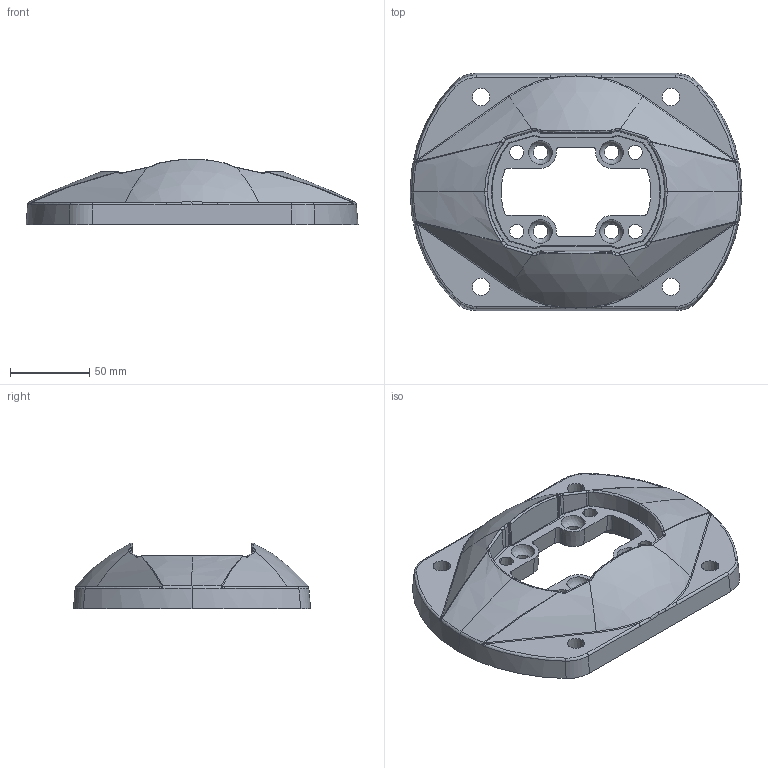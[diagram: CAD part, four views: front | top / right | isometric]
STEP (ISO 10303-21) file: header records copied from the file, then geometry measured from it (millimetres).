
FILE_DESCRIPTION((''),'2;1');
FILE_NAME('75-110-540','2024-03-06T19:14:34',('Administrator'),(''),'CREO PARAMETRIC BY PTC INC, 2019010','CREO PARAMETRIC BY PTC INC, 2019010','');
FILE_SCHEMA(('CONFIG_CONTROL_DESIGN','SHAPE_APPEARANCE_LAYERS_GROUPS'));
Length unit declared in the file: millimetre
Products named in the file (1): 75-110-540
Bounding box: 210 x 150 x 41.46 mm (x, y, z)
Surface area: 95549.4 mm2 (no closed solid volume)
Topology: 0 solids, 1 shells, 497 faces, 1236 edges, 739 vertices
Faces by surface type: bspline 191, cone 93, torus 66, plane 64, cylinder 50, sphere 29, revolution 4
Entity records: 31018 total; most frequent: CARTESIAN_POINT 19247, ORIENTED_EDGE 2426, DIRECTION 1757, COLOUR_RGB 1251, EDGE_CURVE 1213, VERTEX_POINT 739, AXIS2_PLACEMENT_3D 732, EDGE_LOOP 548
